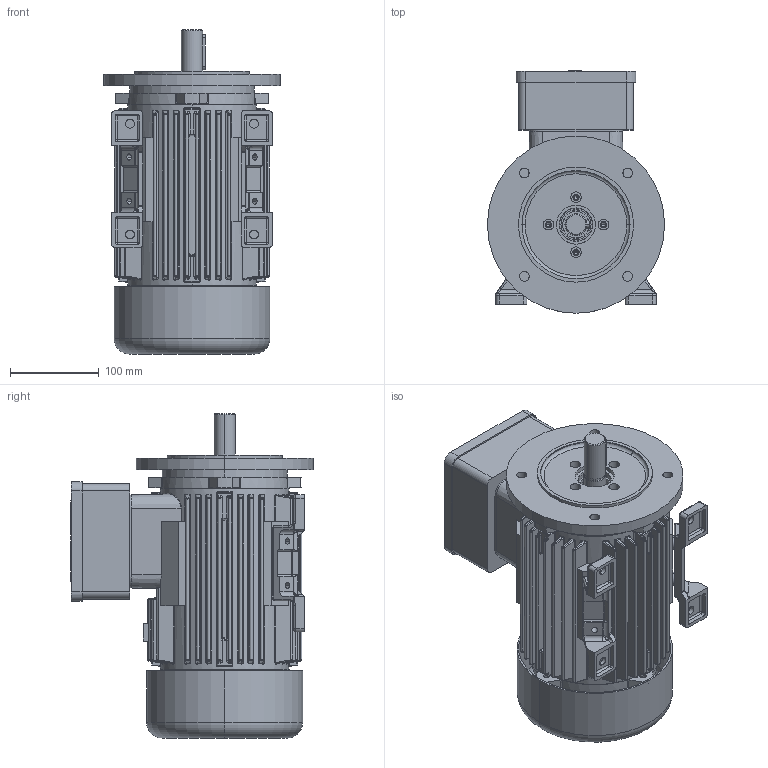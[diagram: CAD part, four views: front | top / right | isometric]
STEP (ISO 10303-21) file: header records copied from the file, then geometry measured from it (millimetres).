
FILE_DESCRIPTION (( 'STEP AP203' ), '1' );
FILE_NAME ('7AZ 90 config.STEP', '2018-06-26T11:59:36', ( '' ), ( '' ), 'SwSTEP 2.0', 'SolidWorks 2018', '' );
FILE_SCHEMA (( 'CONFIG_CONTROL_DESIGN' ));
Products named in the file (1): 7AZ 90 config
Bounding box: 200 x 273.8 x 366 mm (x, y, z)
Volume: 2777121.8 mm3; surface area: 897522.7 mm2
Topology: 16 solids, 16 shells, 2627 faces, 6421 edges, 3745 vertices
Faces by surface type: cylinder 960, bspline 741, plane 639, torus 131, cone 102, sphere 54
Entity records: 104512 total; most frequent: CARTESIAN_POINT 49179, ORIENTED_EDGE 12426, DIRECTION 10553, EDGE_CURVE 6213, AXIS2_PLACEMENT_3D 4108, VERTEX_POINT 3741, EDGE_LOOP 2854, ADVANCED_FACE 2627
